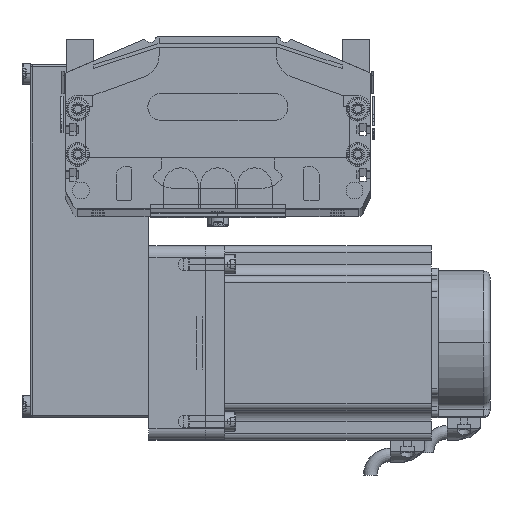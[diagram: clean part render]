
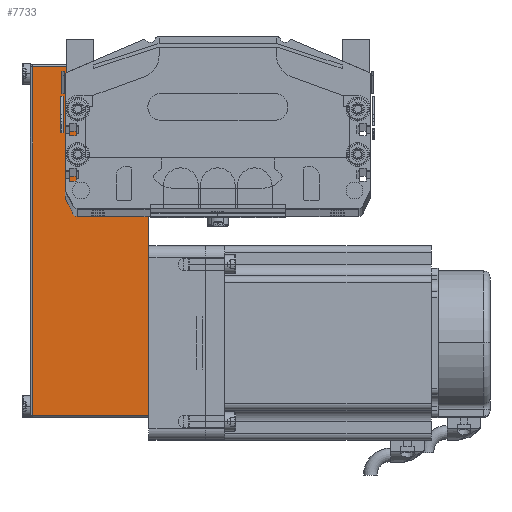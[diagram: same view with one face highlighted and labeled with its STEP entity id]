
A CAD part, top view. The second image highlights one B-rep face of the part: STEP entity #7733.
In plain terms, the highlighted planar face has unit normal (0, 0, 1) as drawn and (0, -1, 0) by its records, which use the part's own axes.
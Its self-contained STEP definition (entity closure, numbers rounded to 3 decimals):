
#7733 = ADVANCED_FACE ( 'NONE', ( #24050 ), #23717, .F. ) ;
#7761 = VERTEX_POINT ( 'NONE', #24286 ) ;
#7763 = ORIENTED_EDGE ( 'NONE', *, *, #7837, .T. ) ;
#7766 = VERTEX_POINT ( 'NONE', #23960 ) ;
#7786 = EDGE_CURVE ( 'NONE', #7761, #7859, #24202, .T. ) ;
#7837 = EDGE_CURVE ( 'NONE', #7845, #7766, #24016, .T. ) ;
#7845 = VERTEX_POINT ( 'NONE', #24094 ) ;
#7859 = VERTEX_POINT ( 'NONE', #24093 ) ;
#7902 = EDGE_LOOP ( 'NONE', ( #7908, #7903, #7763, #7957 ) ) ;
#7903 = ORIENTED_EDGE ( 'NONE', *, *, #7904, .T. ) ;
#7904 = EDGE_CURVE ( 'NONE', #7859, #7845, #24496, .T. ) ;
#7908 = ORIENTED_EDGE ( 'NONE', *, *, #7786, .T. ) ;
#7909 = EDGE_CURVE ( 'NONE', #7766, #7761, #24807, .T. ) ;
#7957 = ORIENTED_EDGE ( 'NONE', *, *, #7909, .T. ) ;
#23717 = PLANE ( 'NONE',  #24056 ) ;
#23960 = CARTESIAN_POINT ( 'NONE',  ( -123.2, -40., 51.5 ) ) ;
#24009 = CARTESIAN_POINT ( 'NONE',  ( 32., -40., 51.5 ) ) ;
#24016 = LINE ( 'NONE', #24009, #24117 ) ;
#24050 = FACE_OUTER_BOUND ( 'NONE', #7902, .T. ) ;
#24056 = AXIS2_PLACEMENT_3D ( 'NONE', #24080, #24078, #24077 ) ;
#24077 = DIRECTION ( 'NONE',  ( -1., 0., 0. ) ) ;
#24078 = DIRECTION ( 'NONE',  ( 0., 1., 0. ) ) ;
#24080 = CARTESIAN_POINT ( 'NONE',  ( 32., -40., 52.5 ) ) ;
#24093 = CARTESIAN_POINT ( 'NONE',  ( 31., -40., 0. ) ) ;
#24094 = CARTESIAN_POINT ( 'NONE',  ( 31., -40., 51.5 ) ) ;
#24115 = DIRECTION ( 'NONE',  ( -1., 0., 0. ) ) ;
#24117 = VECTOR ( 'NONE', #24115, 1000. ) ;
#24198 = DIRECTION ( 'NONE',  ( 1., 0., 0. ) ) ;
#24200 = VECTOR ( 'NONE', #24198, 1000. ) ;
#24201 = CARTESIAN_POINT ( 'NONE',  ( 32., -40., 0. ) ) ;
#24202 = LINE ( 'NONE', #24201, #24200 ) ;
#24286 = CARTESIAN_POINT ( 'NONE',  ( -123.2, -40., 0. ) ) ;
#24496 = LINE ( 'NONE', #24546, #24620 ) ;
#24546 = CARTESIAN_POINT ( 'NONE',  ( 31., -40., 52.5 ) ) ;
#24618 = DIRECTION ( 'NONE',  ( 0., 0., 1. ) ) ;
#24620 = VECTOR ( 'NONE', #24618, 1000. ) ;
#24794 = DIRECTION ( 'NONE',  ( 0., 0., -1. ) ) ;
#24795 = VECTOR ( 'NONE', #24794, 1000. ) ;
#24806 = CARTESIAN_POINT ( 'NONE',  ( -123.2, -40., 52.5 ) ) ;
#24807 = LINE ( 'NONE', #24806, #24795 ) ;
